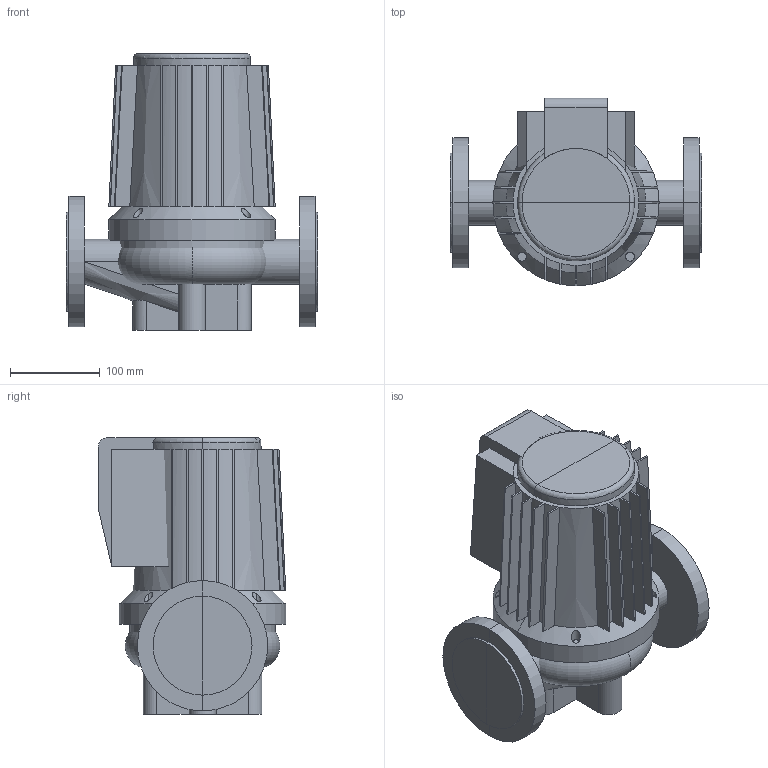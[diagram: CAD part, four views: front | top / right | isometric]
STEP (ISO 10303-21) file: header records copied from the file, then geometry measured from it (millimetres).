
FILE_DESCRIPTION(/* description */ (''),/* implementation_level */ '2;1');
FILE_NAME(/* name */ 'C:\Users\a.zyazeva\Desktop\Wellmix\TG TD WRE WRS\WRS 50-120 F (380 В).stp',/* time_stamp */ '2024-08-28T00:17:10+03:00',/* author */ ('a.zyazeva'),/* organization */ (''),/* preprocessor_version */ 'ST-DEVELOPER v18.1',/* originating_system */ 'Autodesk Inventor 2022',/* authorisation */ '');
FILE_SCHEMA (('AUTOMOTIVE_DESIGN { 1 0 10303 214 3 1 1 }'));
Length unit declared in the file: millimetre
Products named in the file (1): WRS 50-120 F (380 В)
Bounding box: 280 x 208.5 x 308 mm (x, y, z)
Volume: 8464197.4 mm3; surface area: 626009.6 mm2
Topology: 6 solids, 6 shells, 167 faces, 401 edges, 247 vertices
Faces by surface type: plane 99, cylinder 30, cone 17, bspline 16, torus 5
Entity records: 6123 total; most frequent: CARTESIAN_POINT 2438, ORIENTED_EDGE 802, DIRECTION 684, EDGE_CURVE 401, AXIS2_PLACEMENT_3D 250, VERTEX_POINT 247, LINE 184, VECTOR 184
